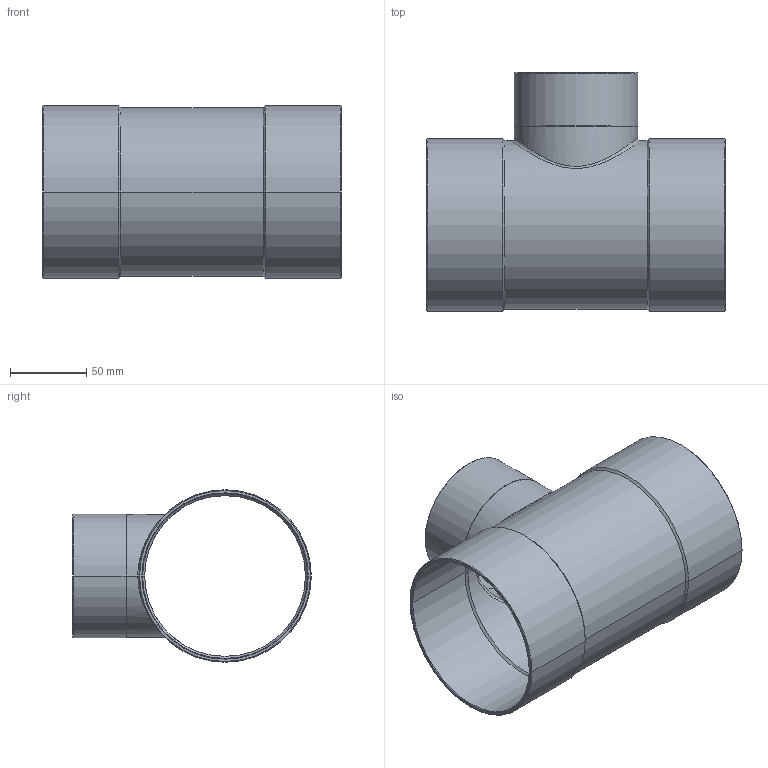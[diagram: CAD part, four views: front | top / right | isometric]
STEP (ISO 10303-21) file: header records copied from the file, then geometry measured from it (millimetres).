
FILE_DESCRIPTION((''),'2;1');
FILE_NAME('G:\Technics\CAD\Bauteile\15130\1513010876108.stp','2005-11-02T10:20:08',('boden'),(''),'Autodesk Inventor 8','Autodesk Inventor 8','');
FILE_SCHEMA(('AUTOMOTIVE_DESIGN { 1 0 10303 214 1 1 1 1 }'));
Length unit declared in the file: millimetre
Products named in the file (1): 1513010876108
Bounding box: 196 x 156.6 x 113.2 mm (x, y, z)
Volume: 189331.3 mm3; surface area: 153293.6 mm2
Topology: 1 solids, 1 shells, 49 faces, 108 edges, 60 vertices
Faces by surface type: cone 24, cylinder 20, plane 3, bspline 2
Entity records: 1795 total; most frequent: CARTESIAN_POINT 688, DIRECTION 242, ORIENTED_EDGE 216, EDGE_CURVE 108, AXIS2_PLACEMENT_3D 98, VERTEX_POINT 60, EDGE_LOOP 52, CIRCLE 50
